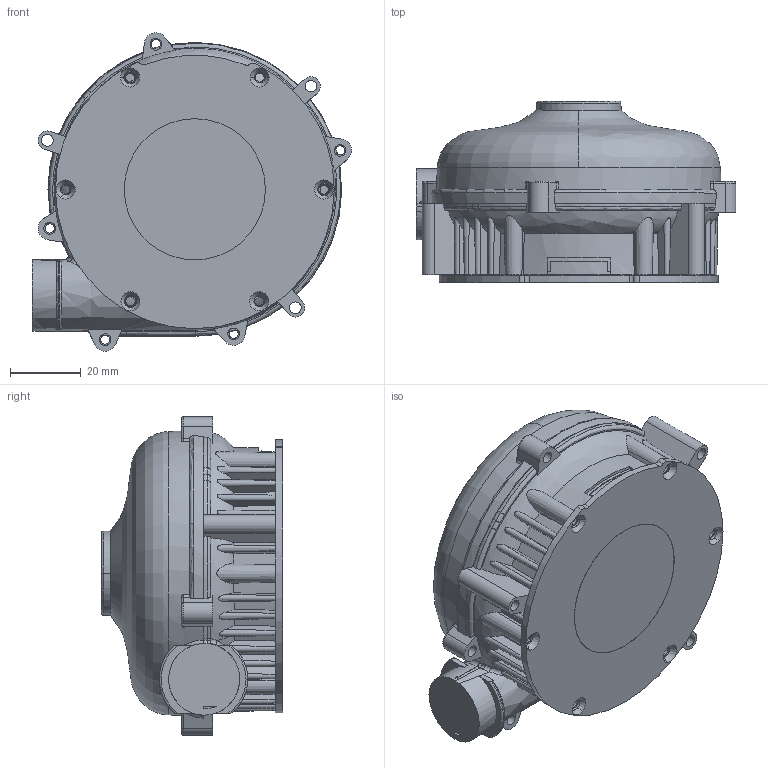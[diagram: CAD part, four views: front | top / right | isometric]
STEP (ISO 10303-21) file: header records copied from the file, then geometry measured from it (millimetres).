
FILE_DESCRIPTION((''),'2;1');
FILE_NAME('_0002_54','2026-07-15T10:25:13',('pc'),(''),'CREO PARAMETRIC BY PTC INC, 2018050','CREO PARAMETRIC BY PTC INC, 2018050','');
FILE_SCHEMA(('CONFIG_CONTROL_DESIGN','GEOMETRIC_VALIDATION_PROPERTIES_MIM'));
Length unit declared in the file: millimetre
Products named in the file (1): _0002_54
Bounding box: 90.4 x 51.28 x 90.15 mm (x, y, z)
Volume: 216489 mm3; surface area: 37450.6 mm2
Topology: 2 solids, 2 shells, 472 faces, 1353 edges, 901 vertices
Faces by surface type: plane 180, cylinder 147, cone 61, bspline 52, torus 21, extrusion 9, revolution 2
Entity records: 26933 total; most frequent: CARTESIAN_POINT 10748, ORIENTED_EDGE 2706, DIRECTION 2124, PRESENTATION_STYLE_ASSIGNMENT 1390, STYLED_ITEM 1355, CURVE_STYLE 1353, EDGE_CURVE 1353, VERTEX_POINT 901
